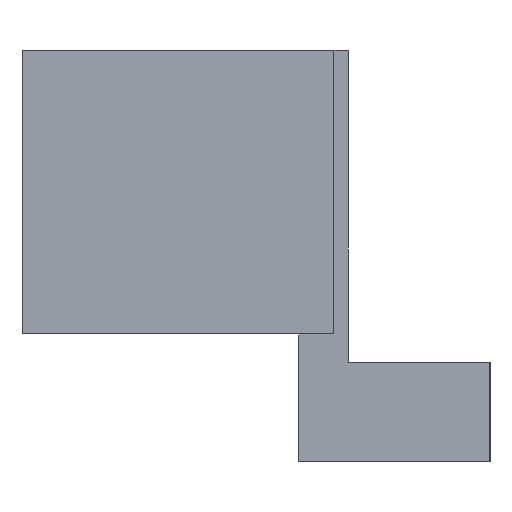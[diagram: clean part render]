
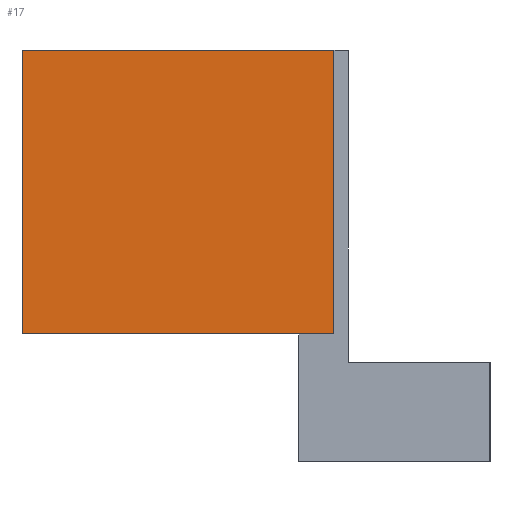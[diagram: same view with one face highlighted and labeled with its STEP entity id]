
A CAD part, left-side view. The second image highlights one B-rep face of the part: STEP entity #17.
In plain terms, the highlighted planar face has unit normal (-1, 0, 0).
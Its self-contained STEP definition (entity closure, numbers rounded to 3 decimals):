
#17 = ADVANCED_FACE('',(#18),#32,.F.);
#18 = FACE_BOUND('',#19,.F.);
#19 = EDGE_LOOP('',(#20,#55,#83,#111));
#20 = ORIENTED_EDGE('',*,*,#21,.F.);
#21 = EDGE_CURVE('',#22,#24,#26,.T.);
#22 = VERTEX_POINT('',#23);
#23 = CARTESIAN_POINT('',(-1.,34.,10.));
#24 = VERTEX_POINT('',#25);
#25 = CARTESIAN_POINT('',(-1.,34.,14.));
#26 = SURFACE_CURVE('',#27,(#31,#43),.PCURVE_S1.);
#27 = LINE('',#28,#29);
#28 = CARTESIAN_POINT('',(-1.,34.,10.));
#29 = VECTOR('',#30,1.);
#30 = DIRECTION('',(0.,0.,1.));
#31 = PCURVE('',#32,#37);
#32 = PLANE('',#33);
#33 = AXIS2_PLACEMENT_3D('',#34,#35,#36);
#34 = CARTESIAN_POINT('',(-1.,34.,10.));
#35 = DIRECTION('',(1.,0.,-0.));
#36 = DIRECTION('',(0.,0.,1.));
#37 = DEFINITIONAL_REPRESENTATION('',(#38),#42);
#38 = LINE('',#39,#40);
#39 = CARTESIAN_POINT('',(0.,0.));
#40 = VECTOR('',#41,1.);
#41 = DIRECTION('',(1.,0.));
#42 = ( GEOMETRIC_REPRESENTATION_CONTEXT(2) 
PARAMETRIC_REPRESENTATION_CONTEXT() REPRESENTATION_CONTEXT('2D SPACE',''
  ) );
#43 = PCURVE('',#44,#49);
#44 = PLANE('',#45);
#45 = AXIS2_PLACEMENT_3D('',#46,#47,#48);
#46 = CARTESIAN_POINT('',(-1.,34.,10.));
#47 = DIRECTION('',(-0.,1.,0.));
#48 = DIRECTION('',(0.,0.,1.));
#49 = DEFINITIONAL_REPRESENTATION('',(#50),#54);
#50 = LINE('',#51,#52);
#51 = CARTESIAN_POINT('',(0.,0.));
#52 = VECTOR('',#53,1.);
#53 = DIRECTION('',(1.,0.));
#54 = ( GEOMETRIC_REPRESENTATION_CONTEXT(2) 
PARAMETRIC_REPRESENTATION_CONTEXT() REPRESENTATION_CONTEXT('2D SPACE',''
  ) );
#55 = ORIENTED_EDGE('',*,*,#56,.T.);
#56 = EDGE_CURVE('',#22,#57,#59,.T.);
#57 = VERTEX_POINT('',#58);
#58 = CARTESIAN_POINT('',(-1.,38.4,10.));
#59 = SURFACE_CURVE('',#60,(#64,#71),.PCURVE_S1.);
#60 = LINE('',#61,#62);
#61 = CARTESIAN_POINT('',(-1.,34.,10.));
#62 = VECTOR('',#63,1.);
#63 = DIRECTION('',(-0.,1.,0.));
#64 = PCURVE('',#32,#65);
#65 = DEFINITIONAL_REPRESENTATION('',(#66),#70);
#66 = LINE('',#67,#68);
#67 = CARTESIAN_POINT('',(0.,0.));
#68 = VECTOR('',#69,1.);
#69 = DIRECTION('',(0.,-1.));
#70 = ( GEOMETRIC_REPRESENTATION_CONTEXT(2) 
PARAMETRIC_REPRESENTATION_CONTEXT() REPRESENTATION_CONTEXT('2D SPACE',''
  ) );
#71 = PCURVE('',#72,#77);
#72 = PLANE('',#73);
#73 = AXIS2_PLACEMENT_3D('',#74,#75,#76);
#74 = CARTESIAN_POINT('',(-1.,34.,10.));
#75 = DIRECTION('',(0.,0.,1.));
#76 = DIRECTION('',(1.,0.,-0.));
#77 = DEFINITIONAL_REPRESENTATION('',(#78),#82);
#78 = LINE('',#79,#80);
#79 = CARTESIAN_POINT('',(0.,0.));
#80 = VECTOR('',#81,1.);
#81 = DIRECTION('',(0.,1.));
#82 = ( GEOMETRIC_REPRESENTATION_CONTEXT(2) 
PARAMETRIC_REPRESENTATION_CONTEXT() REPRESENTATION_CONTEXT('2D SPACE',''
  ) );
#83 = ORIENTED_EDGE('',*,*,#84,.T.);
#84 = EDGE_CURVE('',#57,#85,#87,.T.);
#85 = VERTEX_POINT('',#86);
#86 = CARTESIAN_POINT('',(-1.,38.4,14.));
#87 = SURFACE_CURVE('',#88,(#92,#99),.PCURVE_S1.);
#88 = LINE('',#89,#90);
#89 = CARTESIAN_POINT('',(-1.,38.4,10.));
#90 = VECTOR('',#91,1.);
#91 = DIRECTION('',(0.,0.,1.));
#92 = PCURVE('',#32,#93);
#93 = DEFINITIONAL_REPRESENTATION('',(#94),#98);
#94 = LINE('',#95,#96);
#95 = CARTESIAN_POINT('',(0.,-4.4));
#96 = VECTOR('',#97,1.);
#97 = DIRECTION('',(1.,0.));
#98 = ( GEOMETRIC_REPRESENTATION_CONTEXT(2) 
PARAMETRIC_REPRESENTATION_CONTEXT() REPRESENTATION_CONTEXT('2D SPACE',''
  ) );
#99 = PCURVE('',#100,#105);
#100 = PLANE('',#101);
#101 = AXIS2_PLACEMENT_3D('',#102,#103,#104);
#102 = CARTESIAN_POINT('',(-1.,38.4,10.));
#103 = DIRECTION('',(-0.,1.,0.));
#104 = DIRECTION('',(0.,0.,1.));
#105 = DEFINITIONAL_REPRESENTATION('',(#106),#110);
#106 = LINE('',#107,#108);
#107 = CARTESIAN_POINT('',(0.,0.));
#108 = VECTOR('',#109,1.);
#109 = DIRECTION('',(1.,0.));
#110 = ( GEOMETRIC_REPRESENTATION_CONTEXT(2) 
PARAMETRIC_REPRESENTATION_CONTEXT() REPRESENTATION_CONTEXT('2D SPACE',''
  ) );
#111 = ORIENTED_EDGE('',*,*,#112,.F.);
#112 = EDGE_CURVE('',#24,#85,#113,.T.);
#113 = SURFACE_CURVE('',#114,(#118,#125),.PCURVE_S1.);
#114 = LINE('',#115,#116);
#115 = CARTESIAN_POINT('',(-1.,34.,14.));
#116 = VECTOR('',#117,1.);
#117 = DIRECTION('',(-0.,1.,0.));
#118 = PCURVE('',#32,#119);
#119 = DEFINITIONAL_REPRESENTATION('',(#120),#124);
#120 = LINE('',#121,#122);
#121 = CARTESIAN_POINT('',(4.,0.));
#122 = VECTOR('',#123,1.);
#123 = DIRECTION('',(0.,-1.));
#124 = ( GEOMETRIC_REPRESENTATION_CONTEXT(2) 
PARAMETRIC_REPRESENTATION_CONTEXT() REPRESENTATION_CONTEXT('2D SPACE',''
  ) );
#125 = PCURVE('',#126,#131);
#126 = PLANE('',#127);
#127 = AXIS2_PLACEMENT_3D('',#128,#129,#130);
#128 = CARTESIAN_POINT('',(-1.,34.,14.));
#129 = DIRECTION('',(0.,0.,1.));
#130 = DIRECTION('',(1.,0.,-0.));
#131 = DEFINITIONAL_REPRESENTATION('',(#132),#136);
#132 = LINE('',#133,#134);
#133 = CARTESIAN_POINT('',(0.,0.));
#134 = VECTOR('',#135,1.);
#135 = DIRECTION('',(0.,1.));
#136 = ( GEOMETRIC_REPRESENTATION_CONTEXT(2) 
PARAMETRIC_REPRESENTATION_CONTEXT() REPRESENTATION_CONTEXT('2D SPACE',''
  ) );
